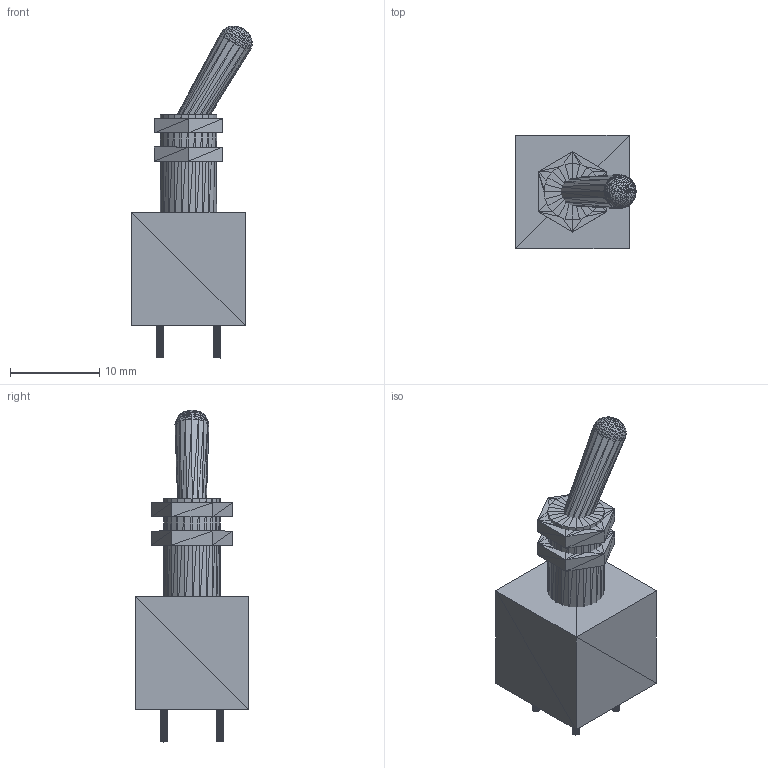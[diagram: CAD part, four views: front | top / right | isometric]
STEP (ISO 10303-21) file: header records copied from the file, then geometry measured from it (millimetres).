
FILE_DESCRIPTION(('HOOPS Exchange Step'),'2;1');
FILE_NAME('***.stp');
FILE_SCHEMA( ('AP242_MANAGED_MODEL_BASED_3D_ENGINEERING_MIM_LF {1 0 10303 442 1 1 4 }') );
Length unit declared in the file: inch
Products named in the file (10): SWSMDPST3_TOG_2; SWSMDPST3_TOG_3; SWSMDPST3_TOG_4; SWSMDPST3_TOG_5; SWSMDPST3_TOG_6; SWSMDPST3_TOG_7; SWSMDPST3_TOG_8; SWSMDPST3_TOG_9; SWSMDPST3_TOG_10; SWSMDPST3_TOG
Assembly tree (9 placements, depth 2):
  SWSMDPST3_TOG
    SWSMDPST3_TOG_2
    SWSMDPST3_TOG_3
    SWSMDPST3_TOG_4
    SWSMDPST3_TOG_5
    SWSMDPST3_TOG_6
    SWSMDPST3_TOG_7
    SWSMDPST3_TOG_8
    SWSMDPST3_TOG_9
    SWSMDPST3_TOG_10
Bounding box: 13.51 x 12.7 x 37.22 mm (x, y, z)
Volume: 2592.9 mm3; surface area: 1997.6 mm2
Topology: 9 solids, 13 shells, 1216 faces, 1808 edges, 608 vertices
Faces by surface type: plane 1216
Entity records: 24059 total; most frequent: DIRECTION 4280, CARTESIAN_POINT 3652, ORIENTED_EDGE 3648, VECTOR 1808, LINE 1808, EDGE_CURVE 1808, AXIS2_PLACEMENT_3D 1236, PLANE 1216
